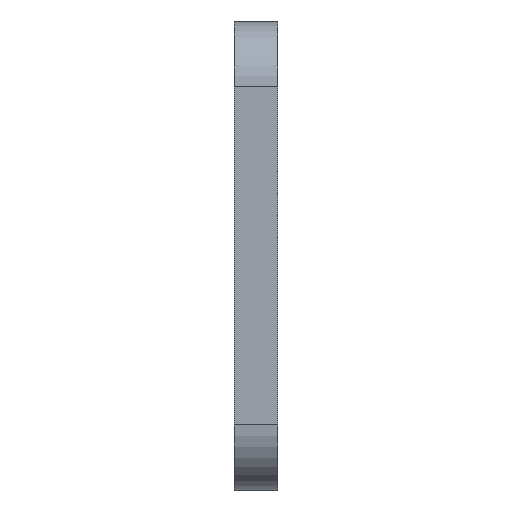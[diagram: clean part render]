
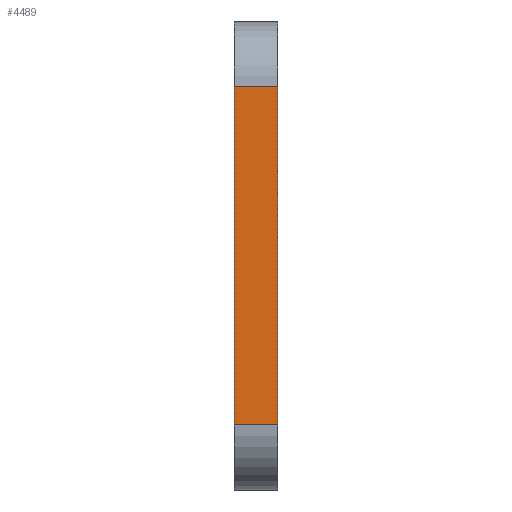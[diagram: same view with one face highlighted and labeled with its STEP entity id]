
A CAD part, front view. The second image highlights one B-rep face of the part: STEP entity #4489.
In plain terms, the highlighted planar face has unit normal (0, -1, 0).
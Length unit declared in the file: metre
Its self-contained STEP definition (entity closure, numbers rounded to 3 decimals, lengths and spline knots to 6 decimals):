
#272=LINE('',#7248,#580);
#325=LINE('',#7455,#633);
#369=LINE('',#7618,#677);
#370=LINE('',#7620,#678);
#580=VECTOR('',#5539,1.);
#633=VECTOR('',#5694,1.);
#677=VECTOR('',#5822,1.);
#678=VECTOR('',#5825,1.);
#1096=ORIENTED_EDGE('',*,*,#2303,.T.);
#1097=ORIENTED_EDGE('',*,*,#2490,.F.);
#1098=ORIENTED_EDGE('',*,*,#2406,.F.);
#1099=ORIENTED_EDGE('',*,*,#2489,.F.);
#2303=EDGE_CURVE('',#3004,#3003,#272,.T.);
#2406=EDGE_CURVE('',#3106,#3107,#325,.T.);
#2489=EDGE_CURVE('',#3004,#3106,#369,.T.);
#2490=EDGE_CURVE('',#3107,#3003,#370,.T.);
#3003=VERTEX_POINT('',#7247);
#3004=VERTEX_POINT('',#7249);
#3106=VERTEX_POINT('',#7454);
#3107=VERTEX_POINT('',#7456);
#3801=EDGE_LOOP('',(#1096,#1097,#1098,#1099));
#4131=FACE_BOUND('',#3801,.T.);
#4432=PLANE('',#4906);
#4489=ADVANCED_FACE('',(#4131),#4432,.T.);
#4906=AXIS2_PLACEMENT_3D('',#7619,#5823,#5824);
#5539=DIRECTION('',(0.,0.,-1.));
#5694=DIRECTION('',(0.,0.,-1.));
#5822=DIRECTION('',(1.,0.,0.));
#5823=DIRECTION('',(0.,-1.,0.));
#5824=DIRECTION('',(1.,0.,0.));
#5825=DIRECTION('',(-1.,0.,0.));
#7247=CARTESIAN_POINT('',(-0.022226,-0.073276,-0.012442));
#7248=CARTESIAN_POINT('',(-0.022226,-0.073276,0.007058));
#7249=CARTESIAN_POINT('',(-0.022226,-0.073276,0.026558));
#7454=CARTESIAN_POINT('',(-0.017226,-0.073276,0.026558));
#7455=CARTESIAN_POINT('',(-0.017226,-0.073276,0.007058));
#7456=CARTESIAN_POINT('',(-0.017226,-0.073276,-0.012442));
#7618=CARTESIAN_POINT('',(-0.022226,-0.073276,0.026558));
#7619=CARTESIAN_POINT('',(-0.007226,-0.073276,0.007058));
#7620=CARTESIAN_POINT('',(0.007774,-0.073276,-0.012442));
